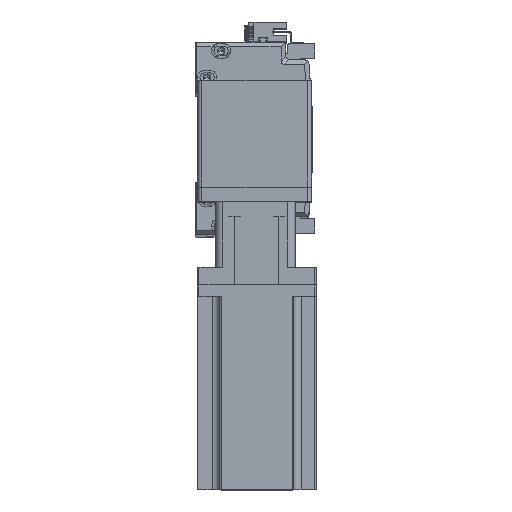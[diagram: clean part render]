
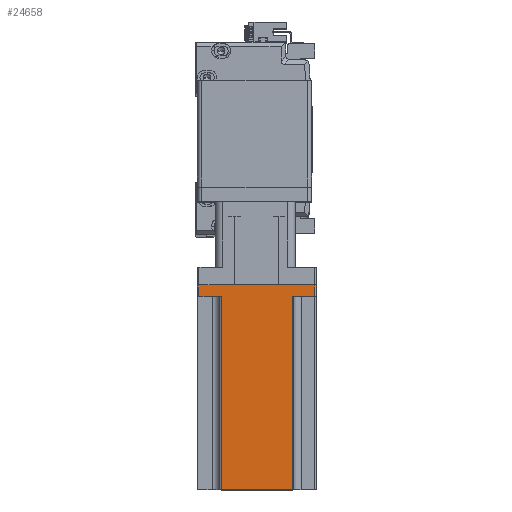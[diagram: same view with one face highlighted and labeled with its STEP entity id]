
A CAD part, top view. The second image highlights one B-rep face of the part: STEP entity #24658.
In plain terms, the highlighted planar face has unit normal (0, 0, 1) as drawn and (0, 1, 0) by its records, which use the part's own axes.
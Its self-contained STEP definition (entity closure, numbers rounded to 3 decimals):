
#1546 = LINE ( 'NONE', #45483, #30223 ) ;
#1925 = VECTOR ( 'NONE', #12752, 1000. ) ;
#2546 = LINE ( 'NONE', #27813, #32358 ) ;
#3080 = LINE ( 'NONE', #5183, #1925 ) ;
#4232 = DIRECTION ( 'NONE',  ( 0., 0., -1. ) ) ;
#4486 = CARTESIAN_POINT ( 'NONE',  ( 40., 40., 138.3 ) ) ;
#4686 = EDGE_CURVE ( 'NONE', #42269, #44978, #2546, .T. ) ;
#5183 = CARTESIAN_POINT ( 'NONE',  ( -39., 40., 138.3 ) ) ;
#7156 = CARTESIAN_POINT ( 'NONE',  ( 39., 40., 138.3 ) ) ;
#7731 = CARTESIAN_POINT ( 'NONE',  ( 24., 40., 138.3 ) ) ;
#8282 = VERTEX_POINT ( 'NONE', #43973 ) ;
#8291 = DIRECTION ( 'NONE',  ( 1., 0., 0. ) ) ;
#8825 = LINE ( 'NONE', #38185, #39722 ) ;
#9159 = CARTESIAN_POINT ( 'NONE',  ( -39., 40., 8. ) ) ;
#9800 = LINE ( 'NONE', #33933, #18526 ) ;
#9863 = CARTESIAN_POINT ( 'NONE',  ( 39., 40., 8. ) ) ;
#9888 = ORIENTED_EDGE ( 'NONE', *, *, #24418, .T. ) ;
#10419 = EDGE_CURVE ( 'NONE', #12998, #24165, #3080, .T. ) ;
#10468 = DIRECTION ( 'NONE',  ( -1., 0., 0. ) ) ;
#11894 = PLANE ( 'NONE',  #17691 ) ;
#12466 = ORIENTED_EDGE ( 'NONE', *, *, #4686, .F. ) ;
#12752 = DIRECTION ( 'NONE',  ( 0., 0., 1. ) ) ;
#12873 = ORIENTED_EDGE ( 'NONE', *, *, #10419, .T. ) ;
#12998 = VERTEX_POINT ( 'NONE', #38289 ) ;
#13324 = VECTOR ( 'NONE', #13832, 1000. ) ;
#13832 = DIRECTION ( 'NONE',  ( -1., 0., 0. ) ) ;
#14492 = LINE ( 'NONE', #21330, #13324 ) ;
#16242 = FACE_OUTER_BOUND ( 'NONE', #26925, .T. ) ;
#17691 = AXIS2_PLACEMENT_3D ( 'NONE', #4486, #30634, #8291 ) ;
#18020 = VECTOR ( 'NONE', #10468, 1000. ) ;
#18526 = VECTOR ( 'NONE', #4232, 1000. ) ;
#19499 = DIRECTION ( 'NONE',  ( 0., 0., 1. ) ) ;
#21319 = EDGE_CURVE ( 'NONE', #42269, #8282, #9800, .T. ) ;
#21330 = CARTESIAN_POINT ( 'NONE',  ( 25., 40., 8. ) ) ;
#21344 = VERTEX_POINT ( 'NONE', #34264 ) ;
#21841 = ORIENTED_EDGE ( 'NONE', *, *, #43712, .T. ) ;
#21860 = VERTEX_POINT ( 'NONE', #47145 ) ;
#24165 = VERTEX_POINT ( 'NONE', #9159 ) ;
#24418 = EDGE_CURVE ( 'NONE', #21344, #12998, #27929, .T. ) ;
#24658 = ADVANCED_FACE ( 'NONE', ( #16242 ), #11894, .F. ) ;
#24706 = EDGE_CURVE ( 'NONE', #24165, #21860, #1546, .T. ) ;
#25748 = DIRECTION ( 'NONE',  ( 0., 0., -1. ) ) ;
#26925 = EDGE_LOOP ( 'NONE', ( #31425, #44637, #12466, #33374, #29361, #21841, #9888, #12873 ) ) ;
#27813 = CARTESIAN_POINT ( 'NONE',  ( 40., 40., 138.3 ) ) ;
#27929 = LINE ( 'NONE', #36496, #18020 ) ;
#29361 = ORIENTED_EDGE ( 'NONE', *, *, #33770, .F. ) ;
#30223 = VECTOR ( 'NONE', #37904, 1000. ) ;
#30634 = DIRECTION ( 'NONE',  ( 0., -1., 0. ) ) ;
#31361 = CARTESIAN_POINT ( 'NONE',  ( -24., 40., 138.3 ) ) ;
#31425 = ORIENTED_EDGE ( 'NONE', *, *, #24706, .T. ) ;
#32098 = DIRECTION ( 'NONE',  ( -1., 0., 0. ) ) ;
#32358 = VECTOR ( 'NONE', #32098, 1000. ) ;
#32754 = VECTOR ( 'NONE', #25748, 1000. ) ;
#33374 = ORIENTED_EDGE ( 'NONE', *, *, #21319, .T. ) ;
#33770 = EDGE_CURVE ( 'NONE', #46906, #8282, #14492, .T. ) ;
#33933 = CARTESIAN_POINT ( 'NONE',  ( 24., 40., 138.3 ) ) ;
#34264 = CARTESIAN_POINT ( 'NONE',  ( 39., 40., 0. ) ) ;
#36496 = CARTESIAN_POINT ( 'NONE',  ( 40., 40., 0. ) ) ;
#37178 = EDGE_CURVE ( 'NONE', #21860, #44978, #8825, .T. ) ;
#37904 = DIRECTION ( 'NONE',  ( 1., 0., 0. ) ) ;
#38185 = CARTESIAN_POINT ( 'NONE',  ( -24., 40., 138.3 ) ) ;
#38289 = CARTESIAN_POINT ( 'NONE',  ( -39., 40., 0. ) ) ;
#39722 = VECTOR ( 'NONE', #19499, 1000. ) ;
#42269 = VERTEX_POINT ( 'NONE', #7731 ) ;
#43712 = EDGE_CURVE ( 'NONE', #46906, #21344, #43769, .T. ) ;
#43769 = LINE ( 'NONE', #7156, #32754 ) ;
#43973 = CARTESIAN_POINT ( 'NONE',  ( 24., 40., 8. ) ) ;
#44637 = ORIENTED_EDGE ( 'NONE', *, *, #37178, .T. ) ;
#44978 = VERTEX_POINT ( 'NONE', #31361 ) ;
#45483 = CARTESIAN_POINT ( 'NONE',  ( -25., 40., 8. ) ) ;
#46906 = VERTEX_POINT ( 'NONE', #9863 ) ;
#47145 = CARTESIAN_POINT ( 'NONE',  ( -24., 40., 8. ) ) ;
